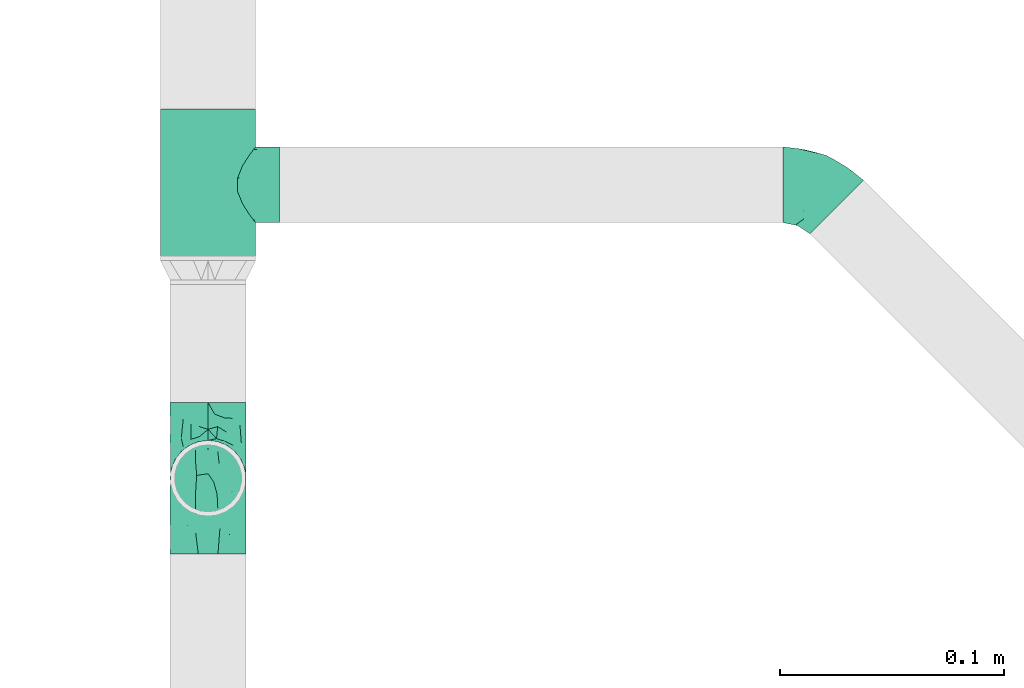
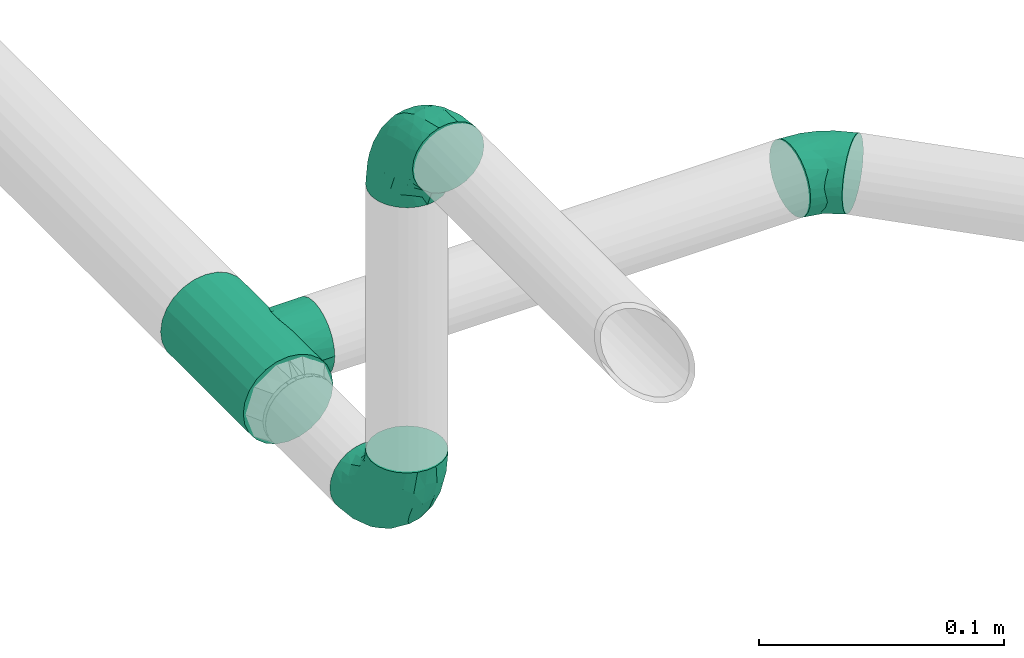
# One storey, part 41 of 157: 4 flow fittings.
"""IFC2X3 building model written with IfcOpenShell, lengths in millimetres."""

from ifc_helpers import new_model, entity, si_unit, converted_unit, derived_unit, direction, frame, origin_with_axes, place, context, subcontext, project, spatial, open_shell, surface_model, source, transform, mapped, type_object, element, save


model = new_model("IFC2X3")

# Units and contexts
model_context = context("Model", 3, precision=0.01, world=frame((0.0, 4.29681676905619e-09, 0.0)), true_north=direction((4.01073788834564e-13, 1.0)))
plan_context = context("Plan", 3, precision=0.01, world=frame((0.0, 4.29681676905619e-09, 0.0)), true_north=direction((4.01073788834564e-13, 1.0)))
body_context = subcontext(model_context, "Body", "Model", "MODEL_VIEW")
ifc_project = project(units=[converted_unit("PLANEANGLEUNIT", "DEGREE", entity("IfcPositiveLengthMeasure", 0.0174532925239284), si_unit("PLANEANGLEUNIT", "RADIAN"), dimensions=[0, 0, 0, 0, 0, 0, 0]), si_unit("AREAUNIT", "SQUARE_METRE"), si_unit("LENGTHUNIT", "METRE", prefix="MILLI"), si_unit("MASSUNIT", "GRAM", prefix="KILO"), si_unit("POWERUNIT", "WATT"), si_unit("PRESSUREUNIT", "PASCAL"), si_unit("FORCEUNIT", "NEWTON", prefix="KILO"), si_unit("ELECTRICCURRENTUNIT", "AMPERE"), si_unit("THERMODYNAMICTEMPERATUREUNIT", "DEGREE_CELSIUS"), si_unit("TIMEUNIT", "SECOND"), si_unit("VOLUMEUNIT", "CUBIC_METRE"), derived_unit("LINEARVELOCITYUNIT", [(si_unit("LENGTHUNIT", "METRE"), 1), (si_unit("TIMEUNIT", "SECOND"), -1)]), derived_unit("VOLUMETRICFLOWRATEUNIT", [(si_unit("VOLUMEUNIT", "CUBIC_METRE"), 1), (si_unit("TIMEUNIT", "SECOND"), -1)]), derived_unit("THERMALTRANSMITTANCEUNIT", [(si_unit("POWERUNIT", "WATT"), 1), (si_unit("THERMODYNAMICTEMPERATUREUNIT", "KELVIN"), -1), (si_unit("AREAUNIT", "SQUARE_METRE"), -1)])], contexts=[model_context, plan_context])

# Site, building, storey
site_placement = place(None, frame((0.0, -4.29681676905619e-09, 0.0), z_axis=(0.0, 0.0, 1.0), x_axis=(1.0, 0.0, 0.0)))
site = spatial("IfcSite", under=ifc_project, at=site_placement, CompositionType="ELEMENT")
building_placement = place(site_placement, frame((0.0, 4.29681676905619e-09, 0.0), z_axis=(0.0, 0.0, 1.0), x_axis=(1.0, 0.0, 0.0)))
building = spatial("IfcBuilding", under=site, at=building_placement, Name="mc-building", CompositionType="ELEMENT")
storey_placement = place(building_placement, frame((0.0, 0.0, 204000.0), z_axis=(0.0, 0.0, 1.0), x_axis=(1.0, 0.0, 0.0)))
storey = spatial("IfcBuildingStorey", under=building, at=storey_placement, Name="Nivå D", CompositionType="ELEMENT", Elevation=204000.0)

# Flow fittings
pipe_fitting_type_1 = type_object("IfcPipeFittingType", Name="magi_pipe_fe_elbow_short_001", PredefinedType="BEND")
shared_shape_1 = source(origin_with_axes(), body_context, "Body", "SurfaceModel", [
    surface_model("IfcShellBasedSurfaceModel", [(-33.8, 8.45, -14.63583), (-33.8, 4.37404, -16.32415), (-33.8, 11.9501, -11.9501), (-33.8, -11.9501, -11.9501), (-33.8, -14.63583, -8.45), (-33.8, -8.45, -14.63583), (-33.8, 0.0, -16.9), (-33.8, -4.37404, -16.32415), (-33.8, -4.37404, 16.32415), (-33.8, 0.0, 16.9), (-33.8, -8.45, 14.63583), (-33.8, 16.32415, -4.37404), (-33.8, 14.63583, -8.45), (-33.8, -16.32415, -4.37404), (-33.8, -16.9, 0.0), (-33.8, -16.32415, 4.37404), (-33.8, 11.9501, 11.9501), (-33.8, 14.63583, 8.45), (-33.8, 16.32415, 4.37404), (-33.8, 4.37404, 16.32415), (-33.8, 8.45, 14.63583), (-33.8, -14.63583, 8.45), (-33.8, -11.9501, 11.9501), (-33.8, 16.9, 0.0), (-11.9501, 33.8, -11.9501), (0.0, 33.8, -16.9), (-4.37404, 33.8, -16.32415), (-8.45, 33.8, -14.63583), (-14.63583, 33.8, -8.45), (-16.32415, 33.8, -4.37404), (14.63583, 33.8, -8.45), (8.45, 33.8, 14.63583), (16.32415, 33.8, -4.37404), (8.45, 33.8, -14.63583), (11.9501, 33.8, -11.9501), (4.37404, 33.8, -16.32415), (16.32415, 33.8, 4.37404), (16.9, 33.8, 0.0), (-11.9501, 33.8, 11.9501), (-16.32415, 33.8, 4.37404), (-14.63583, 33.8, 8.45), (-8.45, 33.8, 14.63583), (-4.37404, 33.8, 16.32415), (11.9501, 33.8, 11.9501), (14.63583, 33.8, 8.45), (0.0, 33.8, 16.9), (4.37404, 33.8, 16.32415), (-16.9, 33.8, 0.0), (-24.79389, -13.12945, 9.48721), (-22.19287, -9.75018, 12.59315), (-24.09897, -14.97035, 0.0), (-14.93934, -10.76256, 8.5297), (-22.46095, -14.75051, 5.27077), (14.75051, 22.46094, 5.27077), (11.9251, 13.23888, 4.33236), (13.04069, 14.39795, 0.0), (7.71387, 13.68847, 11.55891), (9.75018, 22.19287, 12.59315), (4.10169, 13.0571, 14.04018), (-24.84007, -6.39063, 15.2048), (-25.81779, -2.23879, 16.61097), (-23.66549, 2.59054, 16.87119), (-26.50418, 14.06512, 11.08152), (-24.21253, 17.66365, 7.72657), (-29.58514, 15.86957, 7.00283), (-6.17382, -7.5455, 0.0), (-13.23888, -11.9251, 4.33236), (-14.39795, -13.04069, 0.0), (-17.81434, 18.87373, 11.97104), (-6.30846, 29.15138, 15.82987), (-2.31622, 25.28002, 16.85849), (-29.23923, 10.23435, 13.77053), (-1.45439, -2.85688, 7.61475), (-0.28326, 0.34872, 10.09509), (-5.74484, -4.04709, 10.4122), (-4.41137, 11.31918, 16.59407), (-8.39727, 3.10034, 15.7812), (-1.72649, 9.1306, 15.53089), (-17.39909, 24.75344, 7.64977), (-26.19233, 20.0512, 0.0), (-28.14518, 17.29657, 4.25857), (-26.05147, 6.6281, 15.96447), (-5.87354, 16.61944, 16.86968), (-12.51807, 12.51807, 16.48937), (-10.06312, 7.38516, 16.81295), (-3.01882, 3.01882, 13.81718), (-13.0571, -4.10169, 14.04018), (-16.82553, -0.15166, 16.38038), (10.76256, 14.93934, 8.5297), (13.12945, 24.79389, 9.48721), (6.39063, 24.84007, 15.2048), (2.23879, 25.81779, 16.61097), (-13.68847, -7.71387, 11.55891), (14.97035, 24.09897, 0.0), (-7.30894, 22.89991, 16.09489), (-10.67958, 26.17414, 14.008), (-12.78295, 18.26924, 15.06066), (-13.88562, 22.45231, 12.93244), (-18.04944, 15.16501, 14.04434), (-23.11658, 20.08178, 4.02986), (-21.84989, 21.84989, 0.0), (-18.55817, 25.48277, 3.93065), (-13.95142, 26.94732, 11.03289), (-18.57098, 7.23906, 16.59756), (-16.58335, 4.14122, 16.89279), (-17.96666, 11.46709, 15.63151), (-9.84453, 17.54304, 16.18938), (0.15166, 16.82553, 16.38038), (-23.27207, 11.47201, 14.23154), (3.84842, 5.86994, 10.70473), (-8.0212, -7.54413, 7.93275), (1.00345, -2.19508, 4.57414), (5.13203, 3.01004, 5.90201), (5.24161, 1.7543, 2.53265), (8.70457, 7.04947, 3.99182), (-20.0512, 26.19233, 0.0), (8.4852, 8.76699, 7.09296), (-4.55488, -6.72064, 4.90681), (2.05031, -2.05031, 0.0), (7.5455, 6.17382, 0.0), (-26.75399, 2.1369, -16.845), (-14.61995, 24.73803, -11.27736), (-28.45274, -13.45335, -9.81895), (-26.00469, 6.63555, -15.96645), (-23.06726, 20.04573, -4.26202), (-13.80647, -4.26506, -14.17873), (-14.67501, -0.21081, -16.07388), (-6.7902, -0.2828, -13.8478), (-24.53586, 11.08096, -14.13417), (-26.72048, 14.00837, -11.05776), (10.0967, 24.44989, -12.75976), (5.83237, 21.40218, -15.03047), (6.66249, 28.54238, -15.38093), (-20.38182, 15.48705, -12.74596), (12.53268, 21.23441, -9.15363), (12.54494, 15.67504, -5.54878), (9.7522, 12.89279, -8.66343), (-15.65186, 19.64213, -13.01327), (-12.03528, 20.66498, -14.67665), (-15.61907, 15.61906, -14.83879), (-25.56551, -15.26206, 0.0), (-24.65452, -15.12934, -5.50955), (13.45335, 28.45274, -9.81895), (15.12934, 24.65452, -5.50955), (-7.35442, -8.31014, -5.65563), (-15.67504, -12.54494, -5.54878), (-24.44989, -10.0967, -12.75976), (0.16522, 0.41303, -9.71728), (-5.70658, -5.33066, -8.89288), (-5.13869, -2.37198, -11.53565), (-21.23441, -12.53268, -9.15363), (0.71146, 7.93863, -14.09382), (0.21081, 14.67501, -16.07388), (3.49291, 14.42772, -14.76381), (-24.89911, -2.13088, -16.591), (-28.54238, -6.66249, -15.38093), (-18.44386, -7.71663, -13.26957), (2.13088, 24.89911, -16.591), (-28.64342, 17.44413, -2.89318), (1.70017, -1.28722, -5.09504), (-16.57067, 26.81947, -7.36596), (-17.69055, 27.4263, -3.76405), (-12.89279, -9.7522, -8.66343), (-5.96611, 5.96611, -15.95814), (-20.53709, 20.09345, -8.28985), (-2.1369, 26.75399, -16.845), (-6.89872, 24.58781, -16.02578), (-10.60739, 26.53157, -13.98044), (-21.40218, -5.83237, -15.03047), (2.93192, 5.89627, -11.55917), (6.89393, 12.61842, -11.82233), (5.58056, 5.95325, -8.79455), (-3.99512, 18.61798, -16.89635), (8.31014, 7.35442, -5.65563), (-9.1383, 9.86148, -16.89041), (-9.99983, 16.02119, -16.39699), (-16.68576, 9.78031, -16.34199), (-27.01915, 16.61158, -7.12979), (15.26206, 25.56551, 0.0), (-18.61798, 3.99512, -16.89635), (-19.37495, 27.82495, 0.0), (-12.61842, -6.89393, -11.82233), (-18.84705, 19.14018, -10.96545)], [open_shell([[[0, 1, 2]], [[3, 4, 5]], [[6, 7, 5]], [[8, 9, 10]], [[1, 6, 2]], [[11, 12, 2]], [[4, 2, 6]], [[2, 13, 10]], [[5, 4, 6]], [[2, 4, 13]], [[14, 15, 13]], [[11, 2, 16]], [[11, 17, 18]], [[11, 16, 17]], [[19, 20, 16]], [[16, 2, 10]], [[19, 16, 10]], [[21, 22, 15]], [[22, 13, 15]], [[22, 10, 13]], [[10, 9, 19]], [[11, 18, 23]], [[24, 25, 26]], [[24, 26, 27]], [[24, 28, 29]], [[25, 24, 30]], [[31, 32, 24]], [[33, 30, 34]], [[33, 35, 25]], [[25, 30, 33]], [[32, 30, 24]], [[32, 36, 37]], [[38, 24, 29]], [[39, 40, 29]], [[40, 38, 29]], [[38, 41, 42]], [[38, 31, 24]], [[31, 38, 42]], [[36, 43, 44]], [[36, 32, 43]], [[31, 45, 46]], [[32, 31, 43]], [[42, 45, 31]], [[39, 29, 47]], [[22, 48, 49]], [[15, 14, 50]], [[51, 48, 52]], [[53, 54, 55]], [[48, 22, 21]], [[15, 52, 21]], [[56, 57, 58]], [[49, 10, 22]], [[49, 59, 10]], [[9, 60, 61]], [[62, 63, 64]], [[65, 66, 67]], [[57, 43, 31]], [[62, 68, 63]], [[42, 69, 70]], [[20, 71, 16]], [[8, 60, 9]], [[72, 73, 74]], [[75, 76, 77]], [[16, 62, 17]], [[40, 39, 78]], [[79, 23, 80]], [[64, 18, 17]], [[9, 61, 19]], [[19, 81, 20]], [[82, 83, 84]], [[74, 85, 86]], [[59, 86, 87]], [[88, 89, 57]], [[90, 31, 46]], [[44, 53, 36]], [[46, 45, 91]], [[54, 53, 88]], [[44, 89, 53]], [[92, 86, 49]], [[89, 44, 43]], [[10, 59, 8]], [[53, 55, 93]], [[93, 36, 53]], [[66, 52, 67]], [[94, 82, 70]], [[95, 96, 94]], [[97, 98, 96]], [[79, 99, 100]], [[41, 38, 95]], [[101, 100, 99]], [[68, 78, 63]], [[42, 41, 69]], [[23, 18, 80]], [[95, 94, 69]], [[78, 101, 99]], [[38, 102, 95]], [[70, 45, 42]], [[97, 95, 102]], [[15, 50, 52]], [[90, 57, 31]], [[57, 90, 58]], [[81, 19, 61]], [[103, 104, 84]], [[105, 81, 103]], [[38, 40, 102]], [[106, 96, 83]], [[94, 106, 82]], [[91, 70, 107]], [[71, 62, 16]], [[62, 108, 98]], [[86, 59, 49]], [[67, 52, 50]], [[60, 59, 87]], [[92, 49, 51]], [[86, 85, 76]], [[91, 90, 46]], [[37, 36, 93]], [[107, 77, 58]], [[107, 58, 90]], [[58, 85, 109]], [[110, 74, 92]], [[72, 74, 110]], [[66, 51, 52]], [[72, 111, 112]], [[113, 114, 112]], [[56, 88, 57]], [[52, 48, 21]], [[49, 48, 51]], [[57, 89, 43]], [[53, 89, 88]], [[103, 81, 61]], [[71, 81, 108]], [[18, 64, 80]], [[63, 78, 99]], [[47, 115, 101]], [[101, 115, 100]], [[40, 78, 102]], [[68, 102, 78]], [[97, 96, 95]], [[105, 98, 108]], [[103, 84, 83]], [[107, 70, 82]], [[76, 84, 87]], [[82, 84, 75]], [[70, 91, 45]], [[90, 91, 107]], [[59, 60, 8]], [[61, 60, 87]], [[73, 85, 74]], [[109, 112, 116]], [[103, 61, 104]], [[105, 103, 83]], [[96, 105, 83]], [[81, 105, 108]], [[96, 98, 105]], [[62, 98, 68]], [[61, 87, 104]], [[87, 84, 104]], [[86, 76, 87]], [[77, 76, 85]], [[58, 77, 85]], [[75, 77, 107]], [[82, 75, 107]], [[76, 75, 84]], [[81, 71, 20]], [[62, 71, 108]], [[95, 69, 41]], [[70, 69, 94]], [[62, 64, 17]], [[80, 63, 99]], [[63, 80, 64]], [[80, 99, 79]], [[66, 65, 117]], [[110, 66, 117]], [[112, 114, 116]], [[118, 117, 65]], [[110, 92, 51]], [[112, 111, 113]], [[119, 55, 54]], [[74, 86, 92]], [[58, 109, 56]], [[116, 56, 109]], [[66, 110, 51]], [[72, 110, 117]], [[111, 72, 117]], [[73, 112, 109]], [[117, 118, 111]], [[113, 111, 118]], [[118, 119, 113]], [[114, 119, 54]], [[119, 114, 113]], [[116, 54, 88]], [[54, 116, 114]], [[116, 88, 56]], [[112, 73, 72]], [[85, 73, 109]], [[78, 39, 101]], [[47, 101, 39]], [[102, 68, 97]], [[97, 68, 98]], [[82, 106, 83]], [[94, 96, 106]], [[1, 120, 6]], [[28, 24, 121]], [[3, 122, 4]], [[0, 123, 1]], [[100, 124, 79]], [[125, 126, 127]], [[128, 2, 129]], [[130, 131, 132]], [[128, 129, 133]], [[134, 135, 136]], [[137, 138, 139]], [[128, 0, 2]], [[67, 140, 141]], [[134, 142, 143]], [[141, 13, 4]], [[144, 65, 145]], [[146, 3, 5]], [[147, 148, 149]], [[145, 141, 150]], [[151, 152, 153]], [[154, 7, 6]], [[5, 155, 146]], [[150, 146, 156]], [[155, 5, 7]], [[143, 135, 134]], [[35, 157, 25]], [[23, 79, 158]], [[148, 159, 144]], [[160, 161, 29]], [[145, 162, 144]], [[163, 152, 151]], [[29, 28, 160]], [[121, 164, 160]], [[33, 34, 130]], [[25, 165, 26]], [[26, 165, 166]], [[142, 34, 30]], [[24, 27, 167]], [[124, 161, 164]], [[157, 35, 132]], [[155, 154, 168]], [[123, 0, 128]], [[169, 170, 171]], [[172, 157, 152]], [[26, 166, 27]], [[132, 35, 33]], [[142, 130, 34]], [[168, 154, 126]], [[136, 135, 173]], [[133, 137, 139]], [[2, 12, 129]], [[170, 131, 130]], [[30, 32, 143]], [[172, 174, 175]], [[176, 123, 128]], [[158, 177, 11]], [[135, 55, 119]], [[167, 27, 166]], [[175, 166, 172]], [[137, 167, 138]], [[122, 141, 4]], [[140, 14, 13]], [[32, 37, 178]], [[170, 130, 134]], [[152, 157, 131]], [[165, 157, 172]], [[153, 170, 151]], [[152, 163, 174]], [[168, 125, 156]], [[122, 146, 150]], [[120, 154, 6]], [[179, 174, 126]], [[179, 126, 154]], [[126, 163, 127]], [[162, 145, 150]], [[140, 13, 141]], [[32, 178, 143]], [[55, 143, 178]], [[177, 129, 12]], [[128, 133, 139]], [[176, 128, 139]], [[120, 123, 179]], [[121, 160, 28]], [[161, 100, 180]], [[166, 175, 138]], [[121, 24, 167]], [[161, 47, 29]], [[79, 124, 158]], [[124, 164, 177]], [[161, 124, 100]], [[136, 171, 170]], [[127, 163, 151]], [[147, 171, 159]], [[148, 144, 162]], [[127, 151, 169]], [[127, 181, 125]], [[129, 177, 164]], [[12, 11, 177]], [[159, 65, 144]], [[67, 141, 145]], [[143, 55, 135]], [[135, 119, 173]], [[123, 120, 1]], [[154, 120, 179]], [[157, 165, 25]], [[166, 165, 172]], [[172, 152, 174]], [[176, 139, 175]], [[126, 174, 163]], [[176, 174, 179]], [[174, 176, 175]], [[123, 176, 179]], [[150, 181, 162]], [[127, 149, 181]], [[181, 148, 162]], [[159, 148, 147]], [[171, 136, 173]], [[170, 134, 136]], [[159, 171, 173]], [[171, 147, 169]], [[169, 147, 149]], [[151, 170, 169]], [[164, 182, 129]], [[182, 121, 137]], [[181, 149, 148]], [[169, 149, 127]], [[182, 137, 133]], [[167, 137, 121]], [[166, 138, 167]], [[175, 139, 138]], [[129, 182, 133]], [[121, 182, 164]], [[161, 160, 164]], [[47, 161, 180]], [[177, 158, 124]], [[23, 158, 11]], [[130, 132, 33]], [[157, 132, 131]], [[143, 142, 30]], [[130, 142, 134]], [[154, 155, 7]], [[146, 155, 168]], [[146, 122, 3]], [[141, 122, 150]], [[152, 131, 153]], [[159, 119, 118]], [[67, 145, 65]], [[170, 153, 131]], [[119, 159, 173]], [[159, 118, 65]], [[156, 125, 181]], [[126, 125, 168]], [[150, 156, 181]], [[168, 156, 146]]])]),
])
for number, where, z_axis, x_axis, name in (
    (1, (524695.35, 408819.71922, 2880.0), (-1.0, 0.0, 0.0), (0.0, -1.0, 0.0), "magi_pipe_fe_elbow_short_001"),
    (2, (524695.35, 408819.71922, 3080.0), (1.0, 0.0, 0.0), (0.0, 0.0, 1.0), "magi_pipe_fe_elbow_short_001"),
):
    element("IfcFlowFitting", number, at=place(storey_placement, frame(where, z_axis=z_axis, x_axis=x_axis)), inside=storey, type_object=pipe_fitting_type_1, Name=name, context=body_context, shape_type="MappedRepresentation", body=[
        mapped(shared_shape_1, transform((0.0, 0.0, 0.0), scale=1.0)),
    ])
pipe_fitting_type_2 = type_object("IfcPipeFittingType", Name="magi_pipe_fe_tee_centric_90_NOR", PredefinedType="JUNCTION")
shared_shape_2 = source(origin_with_axes(), body_context, "Body", "SurfaceModel", [
    surface_model("IfcShellBasedSurfaceModel", [(-33.8, 0.0, -21.2), (-33.8, -5.48696, -20.47763), (-33.8, 5.48696, -20.47763), (-33.8, 10.6, -18.35974), (-33.8, 14.99066, -14.99066), (-33.8, -20.47763, 5.48696), (-33.8, 18.35974, -10.6), (-33.8, 10.6, 18.35974), (-33.8, -14.99066, -14.99066), (-33.8, -18.35974, -10.6), (-33.8, -10.6, -18.35974), (-33.8, -20.47763, -5.48696), (-33.8, -21.2, 0.0), (-33.8, 18.35974, 10.6), (-33.8, 20.47763, -5.48696), (-33.8, 20.47763, 5.48696), (-33.8, 21.2, 0.0), (-33.8, 14.99066, 14.99066), (-33.8, 5.48696, 20.47763), (-33.8, 0.0, 21.2), (-33.8, -18.35974, 10.6), (-33.8, -14.99066, 14.99066), (-33.8, -10.6, 18.35974), (-33.8, -5.48696, 20.47763), (33.8, 5.48696, -20.47763), (33.8, -5.48696, -20.47763), (33.8, 0.0, -21.2), (33.8, 14.99066, -14.99066), (33.8, 10.6, -18.35974), (33.8, 18.35974, -10.6), (33.8, 20.47763, -5.48696), (33.8, -21.2, 0.0), (33.8, -10.6, -18.35974), (33.8, -18.35974, -10.6), (33.8, -14.99066, -14.99066), (33.8, -20.47763, -5.48696), (33.8, -20.47763, 5.48696), (33.8, 21.2, 0.0), (33.8, 20.47763, 5.48696), (33.8, 18.35974, 10.6), (33.8, 10.6, 18.35974), (33.8, 14.99066, 14.99066), (33.8, 0.0, 21.2), (33.8, 5.48696, 20.47763), (33.8, -14.99066, 14.99066), (33.8, -18.35974, 10.6), (33.8, -10.6, 18.35974), (33.8, -5.48696, 20.47763), (16.9, -21.2, 0.0), (15.78624, -20.32327, 6.03364), (12.81343, -18.11115, 11.01935), (8.52479, -15.37862, 14.59239), (3.07939, -13.16482, 16.61708), (-16.9, -21.2, 0.0), (-15.78686, -20.32375, 6.032), (-8.52604, -15.37932, 14.59166), (-3.0848, -13.16609, 16.61608), (-12.81602, -18.11299, 11.01634), (3.07939, -13.16482, -16.61708), (12.81343, -18.11115, -11.01935), (8.52479, -15.37862, -14.59239), (15.78624, -20.32327, -6.03364), (-3.0848, -13.16609, -16.61608), (-8.52604, -15.37932, -14.59166), (-12.81602, -18.11299, -11.01634), (-15.78686, -20.32375, -6.032), (4.37404, -31.8, -16.32415), (-16.9, -31.8, 0.0), (0.0, -31.8, -16.9), (14.63583, -31.8, -8.45), (8.45, -31.8, -14.63583), (16.32415, -31.8, -4.37404), (11.9501, -31.8, -11.9501), (-11.9501, -31.8, -11.9501), (-8.45, -31.8, -14.63583), (-4.37404, -31.8, -16.32415), (-14.63583, -31.8, -8.45), (-16.32415, -31.8, -4.37404), (16.9, -31.8, 0.0), (8.45, -31.8, 14.63583), (16.32415, -31.8, 4.37404), (14.63583, -31.8, 8.45), (-8.45, -31.8, 14.63583), (11.9501, -31.8, 11.9501), (4.37404, -31.8, 16.32415), (-16.32415, -31.8, 4.37404), (-11.9501, -31.8, 11.9501), (-14.63583, -31.8, 8.45), (0.0, -31.8, 16.9), (-4.37404, -31.8, 16.32415), (-16.34343, -20.76188, 3.016), (16.34312, -20.76163, 3.01682), (-0.00271, -13.16546, 16.61658), (16.34312, -20.76163, -3.01682), (-0.00271, -13.16546, -16.61658), (-16.34343, -20.76188, -3.016)], [open_shell([[[0, 1, 2]], [[3, 2, 4]], [[5, 2, 1]], [[4, 2, 6]], [[6, 2, 7]], [[8, 9, 10]], [[1, 10, 9]], [[9, 11, 1]], [[12, 1, 11]], [[5, 1, 12]], [[13, 14, 6]], [[13, 15, 16]], [[6, 7, 13]], [[5, 7, 2]], [[17, 13, 7]], [[18, 7, 19]], [[20, 21, 5]], [[22, 5, 21]], [[23, 19, 22]], [[7, 5, 22]], [[22, 19, 7]], [[16, 14, 13]], [[24, 25, 26]], [[27, 24, 28]], [[29, 30, 24]], [[29, 24, 27]], [[31, 24, 30]], [[32, 33, 34]], [[33, 32, 25]], [[33, 31, 35]], [[31, 33, 25]], [[25, 24, 31]], [[30, 36, 31]], [[37, 38, 39]], [[37, 39, 40]], [[37, 40, 36]], [[40, 39, 41]], [[42, 40, 43]], [[36, 44, 45]], [[44, 36, 46]], [[46, 42, 47]], [[46, 36, 40]], [[40, 42, 46]], [[37, 36, 30]], [[31, 36, 48]], [[49, 48, 36]], [[36, 45, 49]], [[45, 44, 50]], [[51, 50, 44]], [[52, 51, 44]], [[44, 46, 52]], [[45, 50, 49]], [[53, 54, 5]], [[5, 12, 53]], [[54, 20, 5]], [[55, 56, 21]], [[20, 57, 21]], [[57, 20, 54]], [[21, 57, 55]], [[56, 22, 21]], [[52, 22, 56]], [[19, 47, 42]], [[23, 46, 47]], [[18, 42, 43]], [[39, 38, 15]], [[17, 40, 41]], [[13, 41, 39]], [[43, 40, 7]], [[16, 38, 37]], [[22, 46, 23]], [[23, 47, 19]], [[18, 19, 42]], [[43, 7, 18]], [[7, 40, 17]], [[13, 17, 41]], [[15, 13, 39]], [[38, 16, 15]], [[46, 22, 52]], [[6, 30, 29]], [[14, 37, 30]], [[4, 29, 27]], [[26, 25, 1]], [[2, 28, 24]], [[0, 24, 26]], [[27, 28, 3]], [[10, 25, 32]], [[16, 37, 14]], [[14, 30, 6]], [[4, 6, 29]], [[27, 3, 4]], [[3, 28, 2]], [[0, 2, 24]], [[1, 0, 26]], [[25, 10, 1]], [[32, 58, 10]], [[34, 59, 60]], [[59, 34, 33]], [[60, 58, 34]], [[34, 58, 32]], [[35, 31, 48]], [[35, 61, 33]], [[61, 35, 48]], [[33, 61, 59]], [[62, 63, 8]], [[8, 64, 9]], [[64, 8, 63]], [[62, 8, 10]], [[65, 53, 11]], [[65, 11, 9]], [[11, 53, 12]], [[65, 9, 64]], [[58, 62, 10]], [[66, 67, 68]], [[69, 66, 70]], [[69, 71, 66]], [[69, 70, 72]], [[67, 66, 71]], [[68, 73, 74]], [[74, 75, 68]], [[76, 67, 77]], [[73, 68, 76]], [[67, 76, 68]], [[71, 78, 67]], [[79, 78, 80]], [[79, 80, 81]], [[82, 67, 79]], [[79, 81, 83]], [[82, 79, 84]], [[85, 86, 87]], [[86, 85, 82]], [[82, 88, 89]], [[85, 67, 82]], [[84, 88, 82]], [[79, 67, 78]], [[85, 90, 67]], [[57, 87, 86]], [[85, 87, 54]], [[86, 82, 55]], [[85, 54, 90]], [[90, 53, 67]], [[54, 87, 57]], [[91, 49, 80]], [[55, 89, 56]], [[55, 57, 86]], [[88, 52, 92]], [[55, 82, 89]], [[52, 88, 84]], [[79, 51, 84]], [[50, 83, 81]], [[83, 51, 79]], [[81, 80, 49]], [[83, 50, 51]], [[51, 52, 84]], [[78, 91, 80]], [[49, 50, 81]], [[91, 78, 48]], [[88, 56, 89]], [[92, 56, 88]], [[71, 93, 78]], [[59, 69, 72]], [[71, 69, 61]], [[72, 70, 60]], [[93, 48, 78]], [[61, 69, 59]], [[60, 66, 58]], [[60, 59, 72]], [[68, 62, 94]], [[60, 70, 66]], [[95, 67, 53]], [[95, 65, 77]], [[71, 61, 93]], [[75, 62, 68]], [[65, 76, 77]], [[73, 76, 64]], [[68, 58, 66]], [[75, 63, 62]], [[63, 75, 74]], [[74, 73, 63]], [[63, 73, 64]], [[64, 76, 65]], [[67, 95, 77]], [[94, 58, 68]]])]),
])
flow_fitting_1_placement = place(storey_placement, frame((524695.35, 408950.6375, 2880.0), z_axis=(0.0, 0.0, 1.0), x_axis=(0.0, 1.0, 0.0)))
element("IfcFlowFitting", 3, at=flow_fitting_1_placement, inside=storey, type_object=pipe_fitting_type_2, Name="magi_pipe_fe_tee_centric_90_NOR", context=body_context, shape_type="MappedRepresentation", body=[
    mapped(shared_shape_2, transform((0.0, 0.0, 0.0), scale=1.0)),
])
shared_shape_3 = source(origin_with_axes(), body_context, "Body", "SurfaceModel", [
    surface_model("IfcShellBasedSurfaceModel", [(-14.00042, 4.37404, -16.32415), (-14.00042, 0.0, -16.9), (-14.00042, 11.9501, -11.9501), (-14.00042, 8.45, -14.63583), (-14.00042, 16.32415, -4.37404), (-14.00042, 14.63583, -8.45), (-14.00042, -14.63583, -8.45), (-14.00042, -16.32415, -4.37404), (-14.00042, -8.45, 14.63583), (-14.00042, -11.9501, -11.9501), (-14.00042, -8.45, -14.63583), (-14.00042, -4.37404, -16.32415), (-14.00042, -16.9, 0.0), (-14.00042, -16.32415, 4.37404), (-14.00042, 11.9501, 11.9501), (-14.00042, 16.32415, 4.37404), (-14.00042, 14.63583, 8.45), (-14.00042, 4.37404, 16.32415), (-14.00042, 8.45, 14.63583), (-14.00042, -14.63583, 8.45), (-14.00042, -11.9501, 11.9501), (-14.00042, -4.37404, 16.32415), (-14.00042, 0.0, 16.9), (-14.00042, 16.9, 0.0), (1.44979, 18.34979, -11.9501), (9.89979, 9.89979, -16.9), (6.80688, 12.99271, -16.32415), (3.92474, 15.87484, -14.63583), (-0.4493, 20.24888, -8.45), (-1.64312, 21.4427, -4.37404), (20.24888, -0.4493, -8.45), (15.87484, 3.92474, -14.63583), (18.34979, 1.44979, -11.9501), (12.99271, 6.80688, -16.32415), (15.87484, 3.92474, 14.63583), (21.4427, -1.64312, -4.37404), (21.4427, -1.64312, 4.37404), (21.84989, -2.05031, 0.0), (-2.05031, 21.84989, 0.0), (1.44979, 18.34979, 11.9501), (-1.64312, 21.4427, 4.37404), (-0.4493, 20.24888, 8.45), (3.92474, 15.87484, 14.63583), (6.80688, 12.99271, 16.32415), (20.24888, -0.4493, 8.45), (18.34979, 1.44979, 11.9501), (9.89979, 9.89979, 16.9), (12.99271, 6.80688, 16.32415), (-6.69642, -6.19709, 15.44573), (-3.73886, -9.55149, 13.0407), (1.73525, -4.18927, 15.2328), (-5.45721, -12.9253, 9.8956), (12.9984, -5.28073, 9.8956), (-5.04389, -1.62717, 16.6761), (-6.49351, 7.03255, 15.79912), (-1.60742, 3.88065, 16.84061), (-8.46768, 2.34185, 16.79744), (0.50163, 10.15992, 15.77375), (3.05513, 7.9997, 16.65419), (4.30433, -10.39156, 9.41786), (9.11709, 0.35308, 15.44573), (-6.96204, 16.80785, 6.94325), (-7.45285, 14.17314, 10.66504), (-4.80048, 11.58938, 13.79725), (1.45487, -14.20736, 2.98752), (7.72591, -11.71416, 2.98752), (4.99742, -12.06485, 5.88094), (-4.29939, -14.97035, 0.0), (-4.76236, -15.7636, 3.07885), (16.28713, -6.46486, 3.25046), (12.48134, -8.19596, 5.86894), (-6.7692, 18.10883, 3.55089), (-3.03023, -14.62106, 5.86894), (4.71716, 2.41599, 16.6761), (9.3977, -4.11015, 13.0407), (5.40163, -13.04069, 0.0), (13.62576, -7.5455, 0.0), (-7.53307, 18.18644, 0.0), (2.83663, -6.84823, 13.47681), (-5.04389, -1.62717, -16.6761), (9.01737, -11.07487, -2.98752), (2.82012, -13.74621, -2.98752), (4.99742, -12.06485, -5.88094), (4.71716, 2.41599, -16.6761), (-7.53886, 6.82944, -15.77375), (-7.81695, 3.49634, -16.65419), (-4.75196, 15.29189, -10.66504), (9.3977, -4.11015, -13.0407), (-6.96204, 16.80785, -6.94325), (12.48135, -8.19596, -5.86894), (-8.01833, 17.59142, -3.55089), (-0.38116, 9.56437, -15.79912), (-6.9454, -16.08809, -3.25046), (-3.03023, -14.62106, -5.86894), (4.30433, -10.39156, -9.41786), (12.9984, -5.28073, -9.8956), (-5.45721, -12.9253, -9.8956), (-3.73886, -9.55149, -13.0407), (2.83663, -6.84823, -13.47681), (-6.69642, -6.19709, -15.44573), (1.73525, -4.18927, -15.2328), (9.11709, 0.35308, -15.44573), (-1.60742, 3.88065, -16.84061), (-4.80048, 11.58938, -13.79725), (14.51405, -7.77905, -3.07885), (4.33161, 7.64349, -16.79744)], [open_shell([[[0, 1, 2]], [[3, 0, 2]], [[4, 5, 2]], [[6, 2, 1]], [[2, 7, 8]], [[9, 6, 10]], [[1, 11, 10]], [[1, 10, 6]], [[6, 7, 2]], [[12, 13, 7]], [[4, 2, 14]], [[14, 15, 4]], [[16, 15, 14]], [[17, 18, 14]], [[2, 8, 14]], [[17, 14, 8]], [[19, 20, 13]], [[13, 20, 7]], [[21, 22, 8]], [[20, 8, 7]], [[8, 22, 17]], [[23, 4, 15]], [[24, 25, 26]], [[24, 26, 27]], [[24, 28, 29]], [[25, 24, 30]], [[30, 24, 29]], [[31, 30, 32]], [[31, 33, 25]], [[30, 31, 25]], [[30, 34, 35]], [[35, 36, 37]], [[38, 30, 29]], [[39, 38, 40]], [[39, 40, 41]], [[39, 42, 43]], [[38, 39, 34]], [[34, 39, 43]], [[44, 34, 45]], [[36, 35, 44]], [[34, 46, 47]], [[44, 35, 34]], [[46, 34, 43]], [[30, 38, 34]], [[48, 49, 50]], [[20, 51, 49]], [[8, 20, 49]], [[44, 45, 52]], [[22, 21, 53]], [[21, 8, 48]], [[18, 17, 54]], [[55, 56, 53]], [[22, 56, 17]], [[43, 57, 58]], [[49, 51, 59]], [[34, 47, 60]], [[61, 16, 62]], [[63, 14, 18]], [[64, 65, 66]], [[67, 64, 68]], [[69, 36, 70]], [[61, 71, 15]], [[19, 13, 72]], [[23, 15, 71]], [[15, 16, 61]], [[20, 19, 51]], [[54, 63, 18]], [[72, 66, 59]], [[12, 67, 68]], [[42, 39, 63]], [[46, 58, 73]], [[45, 34, 74]], [[41, 40, 61]], [[73, 47, 46]], [[64, 67, 75]], [[45, 74, 52]], [[55, 58, 57]], [[74, 34, 60]], [[19, 72, 51]], [[76, 69, 65]], [[36, 69, 37]], [[56, 54, 17]], [[71, 61, 40]], [[77, 71, 38]], [[52, 59, 70]], [[49, 78, 50]], [[50, 73, 53]], [[43, 42, 57]], [[50, 60, 73]], [[61, 62, 41]], [[55, 53, 73]], [[39, 41, 62]], [[63, 54, 57]], [[48, 53, 21]], [[16, 14, 62]], [[36, 44, 70]], [[59, 51, 72]], [[78, 59, 74]], [[59, 52, 74]], [[70, 44, 52]], [[14, 63, 62]], [[39, 62, 63]], [[63, 57, 42]], [[55, 57, 54]], [[49, 48, 8]], [[53, 48, 50]], [[73, 60, 47]], [[74, 60, 50]], [[73, 58, 55]], [[46, 43, 58]], [[53, 56, 22]], [[54, 56, 55]], [[64, 66, 72]], [[70, 59, 66]], [[64, 72, 68]], [[65, 64, 75]], [[76, 65, 75]], [[70, 66, 65]], [[72, 13, 68]], [[12, 68, 13]], [[59, 78, 49]], [[74, 50, 78]], [[38, 71, 40]], [[71, 77, 23]], [[65, 69, 70]], [[37, 69, 76]], [[11, 1, 79]], [[80, 81, 82]], [[25, 33, 83]], [[84, 85, 0]], [[5, 86, 2]], [[31, 32, 87]], [[88, 86, 5]], [[30, 35, 89]], [[4, 90, 88]], [[27, 26, 91]], [[92, 7, 93]], [[3, 84, 0]], [[67, 92, 81]], [[94, 95, 89]], [[7, 92, 12]], [[96, 9, 97]], [[9, 10, 97]], [[98, 94, 97]], [[7, 6, 93]], [[9, 96, 6]], [[99, 10, 11]], [[96, 94, 93]], [[100, 79, 83]], [[101, 83, 33]], [[23, 77, 90]], [[80, 76, 75]], [[38, 29, 90]], [[102, 83, 79]], [[24, 27, 103]], [[88, 5, 4]], [[28, 86, 88]], [[99, 97, 10]], [[91, 103, 27]], [[85, 79, 1]], [[103, 91, 84]], [[2, 103, 3]], [[76, 80, 104]], [[25, 105, 26]], [[101, 33, 31]], [[89, 82, 94]], [[32, 30, 95]], [[87, 100, 101]], [[87, 95, 94]], [[100, 99, 79]], [[37, 76, 104]], [[28, 24, 86]], [[105, 91, 26]], [[95, 87, 32]], [[87, 98, 100]], [[105, 83, 102]], [[102, 85, 84]], [[29, 88, 90]], [[30, 89, 95]], [[29, 28, 88]], [[94, 96, 97]], [[93, 6, 96]], [[24, 103, 86]], [[2, 86, 103]], [[103, 84, 3]], [[102, 84, 91]], [[79, 99, 11]], [[97, 99, 100]], [[87, 101, 31]], [[83, 101, 100]], [[79, 85, 102]], [[1, 0, 85]], [[83, 105, 25]], [[91, 105, 102]], [[80, 82, 89]], [[93, 94, 82]], [[80, 89, 104]], [[81, 80, 75]], [[67, 81, 75]], [[93, 82, 81]], [[89, 35, 104]], [[37, 104, 35]], [[94, 98, 87]], [[97, 100, 98]], [[23, 90, 4]], [[90, 77, 38]], [[81, 92, 93]], [[12, 92, 67]]])]),
])
flow_fitting_2_placement = place(storey_placement, frame((524965.79264, 408950.6375, 2880.0), z_axis=(0.0, 0.0, 1.0), x_axis=(-0.707106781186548, 0.707106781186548, 0.0)))
element("IfcFlowFitting", 4, at=flow_fitting_2_placement, inside=storey, type_object=pipe_fitting_type_1, Name="magi_pipe_fe_elbow_short_001", context=body_context, shape_type="MappedRepresentation", body=[
    mapped(shared_shape_3, transform((0.0, 0.0, 0.0), scale=1.0)),
])

save(model, "model.ifc")
